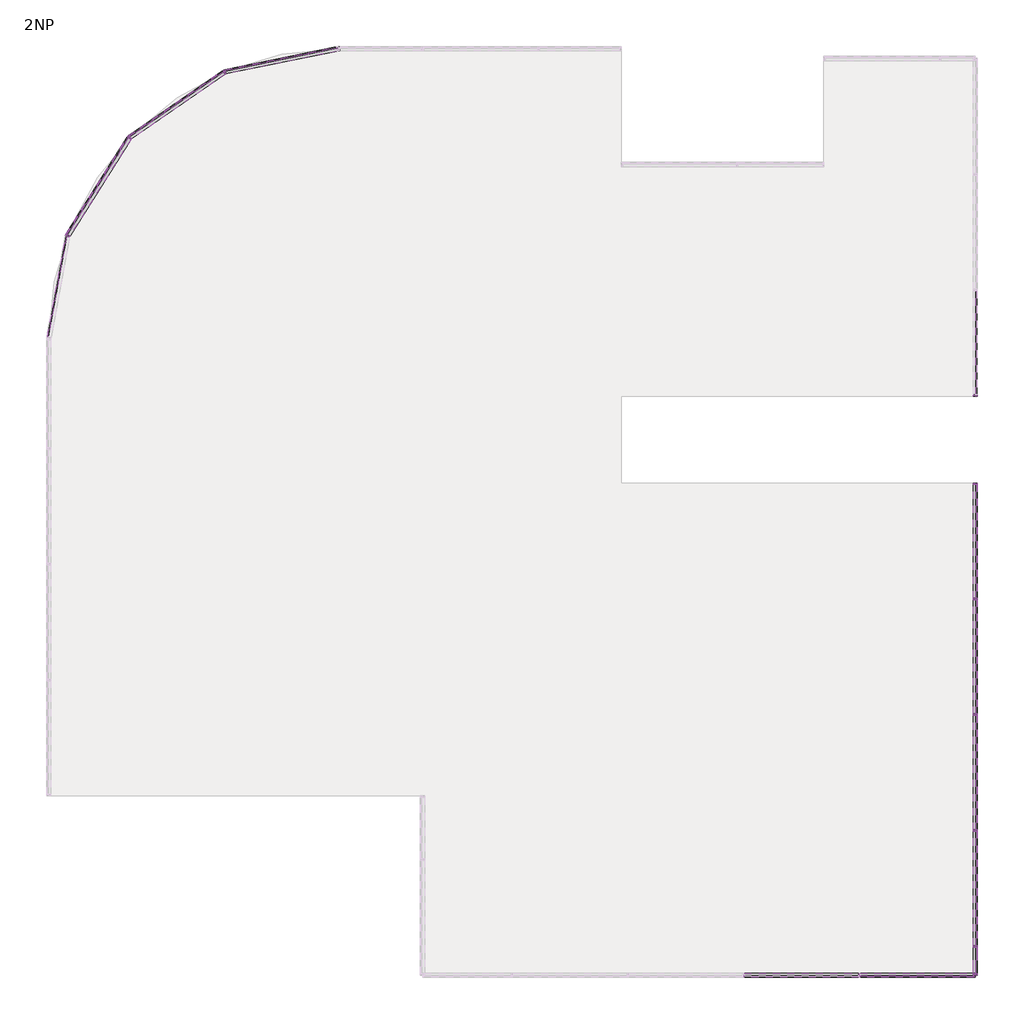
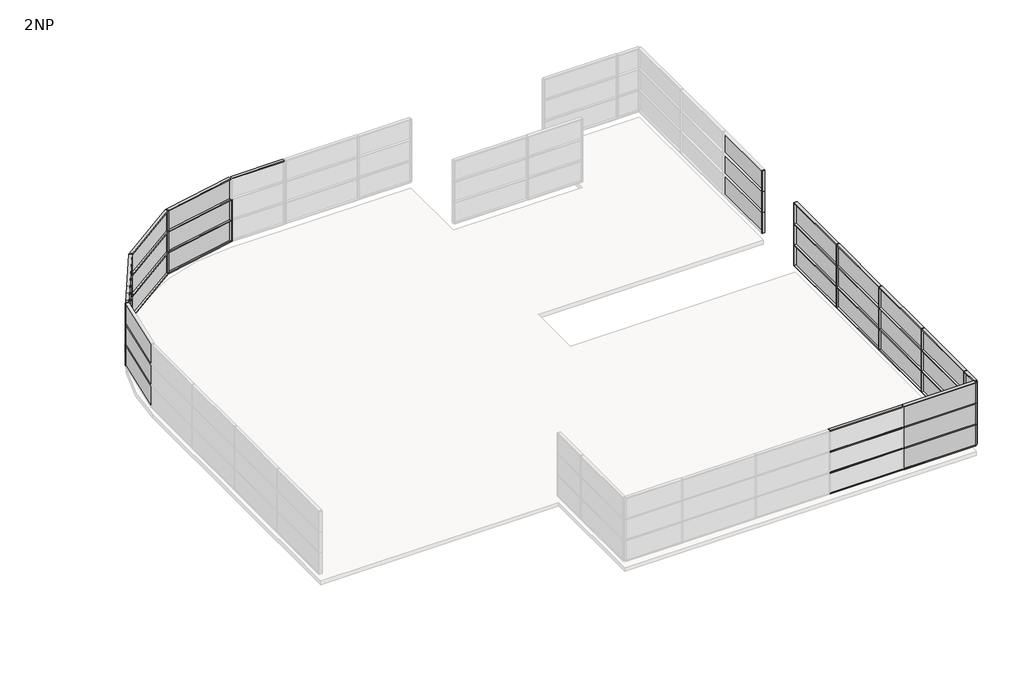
# One storey, part 2 of 3: 76 members, 33 plates.
"""IFC4 building model written with IfcOpenShell, lengths in millimetres."""

from ifc_helpers import new_model, si_unit, origin, place, context, project, spatial, transform, mapped, element, save
from components import rectangular_mullion_50_x_150mm_d99dc9be, rectangular_mullion_50_x_150mm_6588f46c, rectangular_mullion_50_x_150mm_a037c29c, rectangular_mullion_50_x_150mm_c2546fd4, rectangular_mullion_50_x_150mm_116cff39, rectangular_mullion_50_x_150mm_6d604593, rectangular_mullion_50_x_150mm_99029072, rectangular_mullion_50_x_150mm_662445cf, system_panel_glazed_8e9402eb, system_panel_glazed_89ac83a7, system_panel_glazed_5566c609, system_panel_glazed_8c18451d, system_panel_glazed_f47374c1, system_panel_glazed_c3dc520e, system_panel_glazed_01c601c5

model = new_model("IFC4")

# Units and contexts
model_context = context("Model", 3, world=origin())
ifc_project = project(units=[si_unit("LENGTHUNIT", "METRE", prefix="MILLI")], contexts=[model_context])

# Site, building, storey
site = spatial("IfcSite", under=ifc_project)
building = spatial("IfcBuilding", under=site)
storey = spatial("IfcBuildingStorey", under=building, Name="2NP", Elevation=8000.0)

# Members
placement = place(None, origin())
rectangular_mullion_50_x_150mm_shape = rectangular_mullion_50_x_150mm_d99dc9be(model_context)
element("IfcMember", 1, ObjectType="Rectangular Mullion : 50 x 150mm", at=placement, inside=storey, context=model_context, shape_type="MappedRepresentation", body=[
    mapped(rectangular_mullion_50_x_150mm_shape, transform((13503.2660975, -10624.0160434, 9600.0), x_axis=(0.0, -1.0, 0.0), y_axis=(1.0, 0.0, 0.0), z_axis=(0.0, 0.0, 1.0))),
])
element("IfcMember", 2, ObjectType="Rectangular Mullion : 50 x 150mm", at=placement, inside=storey, context=model_context, shape_type="MappedRepresentation", body=[
    mapped(rectangular_mullion_50_x_150mm_shape, transform((13503.2660975, -10624.0160434, 10800.0), x_axis=(0.0, -1.0, 0.0), y_axis=(1.0, 0.0, 0.0), z_axis=(0.0, 0.0, 1.0))),
])
element("IfcMember", 3, ObjectType="Rectangular Mullion : 50 x 150mm", at=placement, inside=storey, context=model_context, shape_type="MappedRepresentation", body=[
    mapped(rectangular_mullion_50_x_150mm_shape, transform((13503.2660975, -10624.0160434, 12000.0), x_axis=(0.0, -1.0, 0.0), y_axis=(1.0, 0.0, 0.0), z_axis=(0.0, 0.0, 1.0))),
])
element("IfcMember", 4, ObjectType="Rectangular Mullion : 50 x 150mm", at=placement, inside=storey, context=model_context, shape_type="MappedRepresentation", body=[
    mapped(rectangular_mullion_50_x_150mm_shape, transform((13503.2660975, -14624.0160434, 9600.0), x_axis=(0.0, -1.0, 0.0), y_axis=(1.0, 0.0, 0.0), z_axis=(0.0, 0.0, 1.0))),
])
element("IfcMember", 5, ObjectType="Rectangular Mullion : 50 x 150mm", at=placement, inside=storey, context=model_context, shape_type="MappedRepresentation", body=[
    mapped(rectangular_mullion_50_x_150mm_shape, transform((13503.2660975, -14624.0160434, 10800.0), x_axis=(0.0, -1.0, 0.0), y_axis=(1.0, 0.0, 0.0), z_axis=(0.0, 0.0, 1.0))),
])
element("IfcMember", 6, ObjectType="Rectangular Mullion : 50 x 150mm", at=placement, inside=storey, context=model_context, shape_type="MappedRepresentation", body=[
    mapped(rectangular_mullion_50_x_150mm_shape, transform((13503.2660975, -14624.0160434, 12000.0), x_axis=(0.0, -1.0, 0.0), y_axis=(1.0, 0.0, 0.0), z_axis=(0.0, 0.0, 1.0))),
])
element("IfcMember", 7, ObjectType="Rectangular Mullion : 50 x 150mm", at=placement, inside=storey, context=model_context, shape_type="MappedRepresentation", body=[
    mapped(rectangular_mullion_50_x_150mm_shape, transform((13503.2660975, -18624.0160434, 9600.0), x_axis=(0.0, -1.0, 0.0), y_axis=(1.0, 0.0, 0.0), z_axis=(0.0, 0.0, 1.0))),
])
element("IfcMember", 8, ObjectType="Rectangular Mullion : 50 x 150mm", at=placement, inside=storey, context=model_context, shape_type="MappedRepresentation", body=[
    mapped(rectangular_mullion_50_x_150mm_shape, transform((13503.2660975, -18624.0160434, 10800.0), x_axis=(0.0, -1.0, 0.0), y_axis=(1.0, 0.0, 0.0), z_axis=(0.0, 0.0, 1.0))),
])
element("IfcMember", 9, ObjectType="Rectangular Mullion : 50 x 150mm", at=placement, inside=storey, context=model_context, shape_type="MappedRepresentation", body=[
    mapped(rectangular_mullion_50_x_150mm_shape, transform((13503.2660975, -18624.0160434, 12000.0), x_axis=(0.0, -1.0, 0.0), y_axis=(1.0, 0.0, 0.0), z_axis=(0.0, 0.0, 1.0))),
])
element("IfcMember", 10, ObjectType="Rectangular Mullion : 50 x 150mm", at=placement, inside=storey, context=model_context, shape_type="MappedRepresentation", body=[
    mapped(rectangular_mullion_50_x_150mm_shape, transform((13503.2660975, -22624.0160434, 9600.0), x_axis=(0.0, -1.0, 0.0), y_axis=(1.0, 0.0, 0.0), z_axis=(0.0, 0.0, 1.0))),
])
element("IfcMember", 11, ObjectType="Rectangular Mullion : 50 x 150mm", at=placement, inside=storey, context=model_context, shape_type="MappedRepresentation", body=[
    mapped(rectangular_mullion_50_x_150mm_shape, transform((13503.2660975, -22624.0160434, 10800.0), x_axis=(0.0, -1.0, 0.0), y_axis=(1.0, 0.0, 0.0), z_axis=(0.0, 0.0, 1.0))),
])
element("IfcMember", 12, ObjectType="Rectangular Mullion : 50 x 150mm", at=placement, inside=storey, context=model_context, shape_type="MappedRepresentation", body=[
    mapped(rectangular_mullion_50_x_150mm_shape, transform((13503.2660975, -22624.0160434, 12000.0), x_axis=(0.0, -1.0, 0.0), y_axis=(1.0, 0.0, 0.0), z_axis=(0.0, 0.0, 1.0))),
])
rectangular_mullion_50_x_150mm_2_shape = rectangular_mullion_50_x_150mm_6588f46c(model_context)
element("IfcMember", 13, ObjectType="Rectangular Mullion : 50 x 150mm", at=placement, inside=storey, context=model_context, shape_type="MappedRepresentation", body=[
    mapped(rectangular_mullion_50_x_150mm_2_shape, transform((13503.2660975, -3624.0160434, 12000.0), x_axis=(0.0, -1.0, 0.0), y_axis=(1.0, 0.0, 0.0), z_axis=(0.0, 0.0, 1.0))),
])
element("IfcMember", 14, ObjectType="Rectangular Mullion : 50 x 150mm", at=placement, inside=storey, context=model_context, shape_type="MappedRepresentation", body=[
    mapped(rectangular_mullion_50_x_150mm_2_shape, transform((13503.2660975, -3624.0160434, 10800.0), x_axis=(0.0, -1.0, 0.0), y_axis=(1.0, 0.0, 0.0), z_axis=(0.0, 0.0, 1.0))),
])
element("IfcMember", 15, ObjectType="Rectangular Mullion : 50 x 150mm", at=placement, inside=storey, context=model_context, shape_type="MappedRepresentation", body=[
    mapped(rectangular_mullion_50_x_150mm_2_shape, transform((13503.2660975, -3624.0160434, 9600.0), x_axis=(0.0, -1.0, 0.0), y_axis=(1.0, 0.0, 0.0), z_axis=(0.0, 0.0, 1.0))),
])
element("IfcMember", 16, ObjectType="Rectangular Mullion : 50 x 150mm", at=placement, inside=storey, context=model_context, shape_type="MappedRepresentation", body=[
    mapped(rectangular_mullion_50_x_150mm_2_shape, transform((13503.2660975, -23624.0160434, 9600.0), x_axis=(0.0, -1.0, 0.0), y_axis=(1.0, 0.0, 0.0), z_axis=(0.0, 0.0, 1.0))),
])
element("IfcMember", 17, ObjectType="Rectangular Mullion : 50 x 150mm", at=placement, inside=storey, context=model_context, shape_type="MappedRepresentation", body=[
    mapped(rectangular_mullion_50_x_150mm_2_shape, transform((13503.2660975, -23624.0160434, 10800.0), x_axis=(0.0, -1.0, 0.0), y_axis=(1.0, 0.0, 0.0), z_axis=(0.0, 0.0, 1.0))),
])
element("IfcMember", 18, ObjectType="Rectangular Mullion : 50 x 150mm", at=placement, inside=storey, context=model_context, shape_type="MappedRepresentation", body=[
    mapped(rectangular_mullion_50_x_150mm_2_shape, transform((13503.2660975, -23624.0160434, 12000.0), x_axis=(0.0, -1.0, 0.0), y_axis=(1.0, 0.0, 0.0), z_axis=(0.0, 0.0, 1.0))),
])
rectangular_mullion_50_x_150mm_3_shape = rectangular_mullion_50_x_150mm_a037c29c(model_context)
element("IfcMember", 19, ObjectType="Rectangular Mullion : 50 x 150mm", at=placement, inside=storey, context=model_context, shape_type="MappedRepresentation", body=[
    mapped(rectangular_mullion_50_x_150mm_3_shape, transform((13503.2660975, -10649.0160434, 8400.0), x_axis=(0.0, 0.0, 1.0), y_axis=(1.0, 0.0, 0.0), z_axis=(0.0, 1.0, 0.0))),
])
element("IfcMember", 20, ObjectType="Rectangular Mullion : 50 x 150mm", at=placement, inside=storey, context=model_context, shape_type="MappedRepresentation", body=[
    mapped(rectangular_mullion_50_x_150mm_3_shape, transform((13503.2660975, -14649.0160434, 8400.0), x_axis=(0.0, 0.0, 1.0), y_axis=(1.0, 0.0, 0.0), z_axis=(0.0, 1.0, 0.0))),
])
element("IfcMember", 21, ObjectType="Rectangular Mullion : 50 x 150mm", at=placement, inside=storey, context=model_context, shape_type="MappedRepresentation", body=[
    mapped(rectangular_mullion_50_x_150mm_3_shape, transform((13503.2660975, -18649.0160434, 8400.0), x_axis=(0.0, 0.0, 1.0), y_axis=(1.0, 0.0, 0.0), z_axis=(0.0, 1.0, 0.0))),
])
element("IfcMember", 22, ObjectType="Rectangular Mullion : 50 x 150mm", at=placement, inside=storey, context=model_context, shape_type="MappedRepresentation", body=[
    mapped(rectangular_mullion_50_x_150mm_3_shape, transform((13503.2660975, -10649.0160434, 9600.0), x_axis=(0.0, 0.0, 1.0), y_axis=(1.0, 0.0, 0.0), z_axis=(0.0, 1.0, 0.0))),
])
element("IfcMember", 23, ObjectType="Rectangular Mullion : 50 x 150mm", at=placement, inside=storey, context=model_context, shape_type="MappedRepresentation", body=[
    mapped(rectangular_mullion_50_x_150mm_3_shape, transform((13503.2660975, -14649.0160434, 9600.0), x_axis=(0.0, 0.0, 1.0), y_axis=(1.0, 0.0, 0.0), z_axis=(0.0, 1.0, 0.0))),
])
element("IfcMember", 24, ObjectType="Rectangular Mullion : 50 x 150mm", at=placement, inside=storey, context=model_context, shape_type="MappedRepresentation", body=[
    mapped(rectangular_mullion_50_x_150mm_3_shape, transform((13503.2660975, -18649.0160434, 9600.0), x_axis=(0.0, 0.0, 1.0), y_axis=(1.0, 0.0, 0.0), z_axis=(0.0, 1.0, 0.0))),
])
element("IfcMember", 25, ObjectType="Rectangular Mullion : 50 x 150mm", at=placement, inside=storey, context=model_context, shape_type="MappedRepresentation", body=[
    mapped(rectangular_mullion_50_x_150mm_3_shape, transform((13503.2660975, -10649.0160434, 10800.0), x_axis=(0.0, 0.0, 1.0), y_axis=(1.0, 0.0, 0.0), z_axis=(0.0, 1.0, 0.0))),
])
element("IfcMember", 26, ObjectType="Rectangular Mullion : 50 x 150mm", at=placement, inside=storey, context=model_context, shape_type="MappedRepresentation", body=[
    mapped(rectangular_mullion_50_x_150mm_3_shape, transform((13503.2660975, -14649.0160434, 10800.0), x_axis=(0.0, 0.0, 1.0), y_axis=(1.0, 0.0, 0.0), z_axis=(0.0, 1.0, 0.0))),
])
element("IfcMember", 27, ObjectType="Rectangular Mullion : 50 x 150mm", at=placement, inside=storey, context=model_context, shape_type="MappedRepresentation", body=[
    mapped(rectangular_mullion_50_x_150mm_3_shape, transform((13503.2660975, -18649.0160434, 10800.0), x_axis=(0.0, 0.0, 1.0), y_axis=(1.0, 0.0, 0.0), z_axis=(0.0, 1.0, 0.0))),
])
element("IfcMember", 28, ObjectType="Rectangular Mullion : 50 x 150mm", at=placement, inside=storey, context=model_context, shape_type="MappedRepresentation", body=[
    mapped(rectangular_mullion_50_x_150mm_3_shape, transform((13503.2660975, -10649.0160434, 12000.0), x_axis=(0.0, 0.0, 1.0), y_axis=(1.0, 0.0, 0.0), z_axis=(0.0, 1.0, 0.0))),
])
element("IfcMember", 29, ObjectType="Rectangular Mullion : 50 x 150mm", at=placement, inside=storey, context=model_context, shape_type="MappedRepresentation", body=[
    mapped(rectangular_mullion_50_x_150mm_3_shape, transform((13503.2660975, -14649.0160434, 12000.0), x_axis=(0.0, 0.0, 1.0), y_axis=(1.0, 0.0, 0.0), z_axis=(0.0, 1.0, 0.0))),
])
element("IfcMember", 30, ObjectType="Rectangular Mullion : 50 x 150mm", at=placement, inside=storey, context=model_context, shape_type="MappedRepresentation", body=[
    mapped(rectangular_mullion_50_x_150mm_3_shape, transform((13503.2660975, -18649.0160434, 12000.0), x_axis=(0.0, 0.0, 1.0), y_axis=(1.0, 0.0, 0.0), z_axis=(0.0, 1.0, 0.0))),
])
element("IfcMember", 31, ObjectType="Rectangular Mullion : 50 x 150mm", at=placement, inside=storey, context=model_context, shape_type="MappedRepresentation", body=[
    mapped(rectangular_mullion_50_x_150mm_3_shape, transform((9478.2660975, -23624.0160434, 9600.0), x_axis=(0.0, 0.0, 1.0), y_axis=(0.0, -1.0, 0.0), z_axis=(1.0, 0.0, 0.0))),
])
element("IfcMember", 32, ObjectType="Rectangular Mullion : 50 x 150mm", at=placement, inside=storey, context=model_context, shape_type="MappedRepresentation", body=[
    mapped(rectangular_mullion_50_x_150mm_3_shape, transform((9478.2660975, -23624.0160434, 10800.0), x_axis=(0.0, 0.0, 1.0), y_axis=(0.0, -1.0, 0.0), z_axis=(1.0, 0.0, 0.0))),
])
element("IfcMember", 33, ObjectType="Rectangular Mullion : 50 x 150mm", at=placement, inside=storey, context=model_context, shape_type="MappedRepresentation", body=[
    mapped(rectangular_mullion_50_x_150mm_3_shape, transform((9478.2660975, -23624.0160434, 12000.0), x_axis=(0.0, 0.0, 1.0), y_axis=(0.0, -1.0, 0.0), z_axis=(1.0, 0.0, 0.0))),
])
element("IfcMember", 34, ObjectType="Rectangular Mullion : 50 x 150mm", at=placement, inside=storey, context=model_context, shape_type="MappedRepresentation", body=[
    mapped(rectangular_mullion_50_x_150mm_3_shape, transform((9478.2660975, -23624.0160434, 8400.0), x_axis=(0.0, 0.0, 1.0), y_axis=(0.0, -1.0, 0.0), z_axis=(1.0, 0.0, 0.0))),
])
rectangular_mullion_50_x_150mm_4_shape = rectangular_mullion_50_x_150mm_c2546fd4(model_context)
element("IfcMember", 35, ObjectType="Rectangular Mullion : 50 x 150mm", at=placement, inside=storey, context=model_context, shape_type="MappedRepresentation", body=[
    mapped(rectangular_mullion_50_x_150mm_4_shape, transform((13503.2660975, -6674.0160434, 8400.0), x_axis=(0.0, 0.0, 1.0), y_axis=(1.0, 0.0, 0.0), z_axis=(0.0, 1.0, 0.0))),
])
element("IfcMember", 36, ObjectType="Rectangular Mullion : 50 x 150mm", at=placement, inside=storey, context=model_context, shape_type="MappedRepresentation", body=[
    mapped(rectangular_mullion_50_x_150mm_4_shape, transform((13503.2660975, -6674.0160434, 9600.0), x_axis=(0.0, 0.0, 1.0), y_axis=(1.0, 0.0, 0.0), z_axis=(0.0, 1.0, 0.0))),
])
element("IfcMember", 37, ObjectType="Rectangular Mullion : 50 x 150mm", at=placement, inside=storey, context=model_context, shape_type="MappedRepresentation", body=[
    mapped(rectangular_mullion_50_x_150mm_4_shape, transform((13503.2660975, -6674.0160434, 10800.0), x_axis=(0.0, 0.0, 1.0), y_axis=(1.0, 0.0, 0.0), z_axis=(0.0, 1.0, 0.0))),
])
element("IfcMember", 38, ObjectType="Rectangular Mullion : 50 x 150mm", at=placement, inside=storey, context=model_context, shape_type="MappedRepresentation", body=[
    mapped(rectangular_mullion_50_x_150mm_4_shape, transform((13503.2660975, -6674.0160434, 12000.0), x_axis=(0.0, 0.0, 1.0), y_axis=(1.0, 0.0, 0.0), z_axis=(0.0, 1.0, 0.0))),
])
element("IfcMember", 39, ObjectType="Rectangular Mullion : 50 x 150mm", at=placement, inside=storey, context=model_context, shape_type="MappedRepresentation", body=[
    mapped(rectangular_mullion_50_x_150mm_4_shape, transform((13453.2660975, -23624.0160434, 9600.0), x_axis=(0.0, 0.0, 1.0), y_axis=(0.0, -1.0, 0.0), z_axis=(1.0, 0.0, 0.0))),
])
element("IfcMember", 40, ObjectType="Rectangular Mullion : 50 x 150mm", at=placement, inside=storey, context=model_context, shape_type="MappedRepresentation", body=[
    mapped(rectangular_mullion_50_x_150mm_4_shape, transform((13453.2660975, -23624.0160434, 10800.0), x_axis=(0.0, 0.0, 1.0), y_axis=(0.0, -1.0, 0.0), z_axis=(1.0, 0.0, 0.0))),
])
element("IfcMember", 41, ObjectType="Rectangular Mullion : 50 x 150mm", at=placement, inside=storey, context=model_context, shape_type="MappedRepresentation", body=[
    mapped(rectangular_mullion_50_x_150mm_4_shape, transform((13453.2660975, -23624.0160434, 12000.0), x_axis=(0.0, 0.0, 1.0), y_axis=(0.0, -1.0, 0.0), z_axis=(1.0, 0.0, 0.0))),
])
element("IfcMember", 42, ObjectType="Rectangular Mullion : 50 x 150mm", at=placement, inside=storey, context=model_context, shape_type="MappedRepresentation", body=[
    mapped(rectangular_mullion_50_x_150mm_4_shape, transform((13453.2660975, -23624.0160434, 8400.0), x_axis=(0.0, 0.0, 1.0), y_axis=(0.0, -1.0, 0.0), z_axis=(1.0, 0.0, 0.0))),
])
element("IfcMember", 43, ObjectType="Rectangular Mullion : 50 x 150mm", at=placement, inside=storey, context=model_context, shape_type="MappedRepresentation", body=[
    mapped(rectangular_mullion_50_x_150mm_2_shape, transform((13503.2660975, -6624.0160434, 8400.0), x_axis=(0.0, 1.0, 0.0), y_axis=(1.0, 0.0, 0.0), z_axis=(0.0, 0.0, -1.0))),
])
element("IfcMember", 44, ObjectType="Rectangular Mullion : 50 x 150mm", at=placement, inside=storey, context=model_context, shape_type="MappedRepresentation", body=[
    mapped(rectangular_mullion_50_x_150mm_2_shape, transform((13503.2660975, -6624.0160434, 9600.0), x_axis=(0.0, 1.0, 0.0), y_axis=(1.0, 0.0, 0.0), z_axis=(0.0, 0.0, -1.0))),
])
element("IfcMember", 45, ObjectType="Rectangular Mullion : 50 x 150mm", at=placement, inside=storey, context=model_context, shape_type="MappedRepresentation", body=[
    mapped(rectangular_mullion_50_x_150mm_2_shape, transform((13503.2660975, -6624.0160434, 10800.0), x_axis=(0.0, 1.0, 0.0), y_axis=(1.0, 0.0, 0.0), z_axis=(0.0, 0.0, -1.0))),
])
element("IfcMember", 46, ObjectType="Rectangular Mullion : 50 x 150mm", at=placement, inside=storey, context=model_context, shape_type="MappedRepresentation", body=[
    mapped(rectangular_mullion_50_x_150mm_2_shape, transform((13503.2660975, -23624.0160434, 8400.0), x_axis=(1.0, 0.0, 0.0), y_axis=(0.0, -1.0, 0.0), z_axis=(0.0, 0.0, -1.0))),
])
element("IfcMember", 47, ObjectType="Rectangular Mullion : 50 x 150mm", at=placement, inside=storey, context=model_context, shape_type="MappedRepresentation", body=[
    mapped(rectangular_mullion_50_x_150mm_2_shape, transform((13503.2660975, -23624.0160434, 9600.0), x_axis=(1.0, 0.0, 0.0), y_axis=(0.0, -1.0, 0.0), z_axis=(0.0, 0.0, -1.0))),
])
element("IfcMember", 48, ObjectType="Rectangular Mullion : 50 x 150mm", at=placement, inside=storey, context=model_context, shape_type="MappedRepresentation", body=[
    mapped(rectangular_mullion_50_x_150mm_2_shape, transform((13503.2660975, -23624.0160434, 10800.0), x_axis=(1.0, 0.0, 0.0), y_axis=(0.0, -1.0, 0.0), z_axis=(0.0, 0.0, -1.0))),
])
element("IfcMember", 49, ObjectType="Rectangular Mullion : 50 x 150mm", at=placement, inside=storey, context=model_context, shape_type="MappedRepresentation", body=[
    mapped(rectangular_mullion_50_x_150mm_2_shape, transform((-8496.7339025, 8375.9839566, 8400.0), x_axis=(-1.0, 0.0, 0.0), y_axis=(0.0, 1.0, 0.0), z_axis=(0.0, 0.0, -1.0))),
])
element("IfcMember", 50, ObjectType="Rectangular Mullion : 50 x 150mm", at=placement, inside=storey, context=model_context, shape_type="MappedRepresentation", body=[
    mapped(rectangular_mullion_50_x_150mm_2_shape, transform((-8496.7339025, 8375.9839566, 9600.0), x_axis=(-1.0, 0.0, 0.0), y_axis=(0.0, 1.0, 0.0), z_axis=(0.0, 0.0, -1.0))),
])
rectangular_mullion_50_x_150mm_5_shape = rectangular_mullion_50_x_150mm_116cff39(model_context)
element("IfcMember", 51, ObjectType="Rectangular Mullion : 50 x 150mm", at=placement, inside=storey, context=model_context, shape_type="MappedRepresentation", body=[
    mapped(rectangular_mullion_50_x_150mm_5_shape, transform((13503.2660975, -22649.0160434, 8400.0), x_axis=(0.0, 0.0, 1.0), y_axis=(1.0, 0.0, 0.0), z_axis=(0.0, 1.0, 0.0))),
])
element("IfcMember", 52, ObjectType="Rectangular Mullion : 50 x 150mm", at=placement, inside=storey, context=model_context, shape_type="MappedRepresentation", body=[
    mapped(rectangular_mullion_50_x_150mm_5_shape, transform((13503.2660975, -22649.0160434, 9600.0), x_axis=(0.0, 0.0, 1.0), y_axis=(1.0, 0.0, 0.0), z_axis=(0.0, 1.0, 0.0))),
])
element("IfcMember", 53, ObjectType="Rectangular Mullion : 50 x 150mm", at=placement, inside=storey, context=model_context, shape_type="MappedRepresentation", body=[
    mapped(rectangular_mullion_50_x_150mm_5_shape, transform((13503.2660975, -22649.0160434, 10800.0), x_axis=(0.0, 0.0, 1.0), y_axis=(1.0, 0.0, 0.0), z_axis=(0.0, 1.0, 0.0))),
])
element("IfcMember", 54, ObjectType="Rectangular Mullion : 50 x 150mm", at=placement, inside=storey, context=model_context, shape_type="MappedRepresentation", body=[
    mapped(rectangular_mullion_50_x_150mm_5_shape, transform((13503.2660975, -22649.0160434, 12000.0), x_axis=(0.0, 0.0, 1.0), y_axis=(1.0, 0.0, 0.0), z_axis=(0.0, 1.0, 0.0))),
])
rectangular_mullion_50_x_150mm_6_shape = rectangular_mullion_50_x_150mm_6d604593(model_context)
element("IfcMember", 55, ObjectType="Rectangular Mullion : 50 x 150mm", at=placement, inside=storey, context=model_context, shape_type="MappedRepresentation", body=[
    mapped(rectangular_mullion_50_x_150mm_6_shape, transform((-8446.7339025, 8375.9839566, 12000.0), x_axis=(0.0, 0.0, 1.0), y_axis=(0.0, 1.0, 0.0), z_axis=(-1.0, 0.0, 0.0))),
])
rectangular_mullion_50_x_150mm_7_shape = rectangular_mullion_50_x_150mm_99029072(model_context)
element("IfcMember", 56, ObjectType="Rectangular Mullion : 50 x 150mm", at=placement, inside=storey, context=model_context, shape_type="MappedRepresentation", body=[
    mapped(rectangular_mullion_50_x_150mm_7_shape, transform((-15687.4559914, 5318.1839566, 10800.0), x_axis=(0.0, 0.0, 1.0), y_axis=(-0.5680000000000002, 0.8230285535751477, 0.0), z_axis=(-0.8230285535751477, -0.5680000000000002, 0.0))),
])
element("IfcMember", 57, ObjectType="Rectangular Mullion : 50 x 150mm", at=placement, inside=storey, context=model_context, shape_type="MappedRepresentation", body=[
    mapped(rectangular_mullion_50_x_150mm_7_shape, transform((-17832.9738551, 1944.6319566, 10800.0), x_axis=(0.0, 0.0, 1.0), y_axis=(-0.84512, 0.534576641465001, 0.0), z_axis=(-0.534576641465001, -0.84512, 0.0))),
])
element("IfcMember", 58, ObjectType="Rectangular Mullion : 50 x 150mm", at=placement, inside=storey, context=model_context, shape_type="MappedRepresentation", body=[
    mapped(rectangular_mullion_50_x_150mm_7_shape, transform((-15687.4559914, 5318.1839566, 8400.0), x_axis=(0.0, 0.0, 1.0), y_axis=(-0.5680000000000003, 0.8230285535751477, 0.0), z_axis=(-0.8230285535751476, -0.5680000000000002, 0.0))),
])
element("IfcMember", 59, ObjectType="Rectangular Mullion : 50 x 150mm", at=placement, inside=storey, context=model_context, shape_type="MappedRepresentation", body=[
    mapped(rectangular_mullion_50_x_150mm_7_shape, transform((-17832.9738551, 1944.6319566, 8400.0), x_axis=(0.0, 0.0, 1.0), y_axis=(-0.84512, 0.534576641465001, 0.0), z_axis=(-0.534576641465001, -0.84512, 0.0))),
])
element("IfcMember", 60, ObjectType="Rectangular Mullion : 50 x 150mm", at=placement, inside=storey, context=model_context, shape_type="MappedRepresentation", body=[
    mapped(rectangular_mullion_50_x_150mm_7_shape, transform((-15687.4559914, 5318.1839566, 9600.0), x_axis=(0.0, 0.0, 1.0), y_axis=(-0.5680000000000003, 0.8230285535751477, 0.0), z_axis=(-0.8230285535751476, -0.5680000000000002, 0.0))),
])
element("IfcMember", 61, ObjectType="Rectangular Mullion : 50 x 150mm", at=placement, inside=storey, context=model_context, shape_type="MappedRepresentation", body=[
    mapped(rectangular_mullion_50_x_150mm_7_shape, transform((-17832.9738551, 1944.6319566, 9600.0), x_axis=(0.0, 0.0, 1.0), y_axis=(-0.84512, 0.534576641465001, 0.0), z_axis=(-0.534576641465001, -0.84512, 0.0))),
])
rectangular_mullion_50_x_150mm_8_shape = rectangular_mullion_50_x_150mm_662445cf(model_context)
element("IfcMember", 62, ObjectType="Rectangular Mullion : 50 x 150mm", at=placement, inside=storey, context=model_context, shape_type="MappedRepresentation", body=[
    mapped(rectangular_mullion_50_x_150mm_8_shape, transform((-12391.4225935, 7580.9839566, 10800.0), x_axis=(0.0, 0.0, 1.0), y_axis=(-0.19999999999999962, 0.9797958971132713, 0.0), z_axis=(-0.9797958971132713, -0.19999999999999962, 0.0))),
])
element("IfcMember", 63, ObjectType="Rectangular Mullion : 50 x 150mm", at=placement, inside=storey, context=model_context, shape_type="MappedRepresentation", body=[
    mapped(rectangular_mullion_50_x_150mm_8_shape, transform((-12391.4225935, 7580.9839566, 8400.0), x_axis=(0.0, 0.0, 1.0), y_axis=(-0.19999999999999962, 0.9797958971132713, 0.0), z_axis=(-0.9797958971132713, -0.19999999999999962, 0.0))),
])
element("IfcMember", 64, ObjectType="Rectangular Mullion : 50 x 150mm", at=placement, inside=storey, context=model_context, shape_type="MappedRepresentation", body=[
    mapped(rectangular_mullion_50_x_150mm_8_shape, transform((-12391.4225935, 7580.9839566, 9600.0), x_axis=(0.0, 0.0, 1.0), y_axis=(-0.19999999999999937, 0.9797958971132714, 0.0), z_axis=(-0.9797958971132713, -0.19999999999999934, 0.0))),
])
element("IfcMember", 65, ObjectType="Rectangular Mullion : 50 x 150mm", at=placement, inside=storey, context=model_context, shape_type="MappedRepresentation", body=[
    mapped(rectangular_mullion_50_x_150mm_8_shape, transform((-12391.4225935, 7580.9839566, 12000.0), x_axis=(0.0, 0.0, 1.0), y_axis=(-0.19999999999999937, 0.9797958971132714, 0.0), z_axis=(-0.9797958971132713, -0.19999999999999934, 0.0))),
])
element("IfcMember", 66, ObjectType="Rectangular Mullion : 50 x 150mm", at=placement, inside=storey, context=model_context, shape_type="MappedRepresentation", body=[
    mapped(rectangular_mullion_50_x_150mm_7_shape, transform((-15687.4559914, 5318.1839566, 12000.0), x_axis=(0.0, 0.0, 1.0), y_axis=(-0.5680000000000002, 0.8230285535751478, 0.0), z_axis=(-0.8230285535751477, -0.5680000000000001, 0.0))),
])
element("IfcMember", 67, ObjectType="Rectangular Mullion : 50 x 150mm", at=placement, inside=storey, context=model_context, shape_type="MappedRepresentation", body=[
    mapped(rectangular_mullion_50_x_150mm_7_shape, transform((-17832.9738551, 1944.6319566, 12000.0), x_axis=(0.0, 0.0, 1.0), y_axis=(-0.84512, 0.534576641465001, 0.0), z_axis=(-0.534576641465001, -0.84512, 0.0))),
])
element("IfcMember", 68, ObjectType="Rectangular Mullion : 50 x 150mm", at=placement, inside=storey, context=model_context, shape_type="MappedRepresentation", body=[
    mapped(rectangular_mullion_50_x_150mm_shape, transform((-12415.9174909, 7575.9839566, 8400.0), x_axis=(-0.92, -0.3919183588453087, 0.0), y_axis=(-0.3919183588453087, 0.92, 0.0), z_axis=(0.0, 0.0, -1.0))),
])
element("IfcMember", 69, ObjectType="Rectangular Mullion : 50 x 150mm", at=placement, inside=storey, context=model_context, shape_type="MappedRepresentation", body=[
    mapped(rectangular_mullion_50_x_150mm_shape, transform((-12415.9174909, 7575.9839566, 9600.0), x_axis=(-0.92, -0.3919183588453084, 0.0), y_axis=(-0.3919183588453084, 0.92, 0.0), z_axis=(0.0, 0.0, -1.0))),
])
element("IfcMember", 70, ObjectType="Rectangular Mullion : 50 x 150mm", at=placement, inside=storey, context=model_context, shape_type="MappedRepresentation", body=[
    mapped(rectangular_mullion_50_x_150mm_shape, transform((-12415.9174909, 7575.9839566, 10800.0), x_axis=(-0.9200000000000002, -0.3919183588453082, 0.0), y_axis=(-0.3919183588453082, 0.9200000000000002, 0.0), z_axis=(0.0, 0.0, -1.0))),
])
element("IfcMember", 71, ObjectType="Rectangular Mullion : 50 x 150mm", at=placement, inside=storey, context=model_context, shape_type="MappedRepresentation", body=[
    mapped(rectangular_mullion_50_x_150mm_shape, transform((-15708.0317052, 5303.9839566, 8400.0), x_axis=(-0.6927999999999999, -0.7211297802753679, 0.0), y_axis=(-0.7211297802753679, 0.6927999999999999, 0.0), z_axis=(0.0, 0.0, -1.0))),
])
element("IfcMember", 72, ObjectType="Rectangular Mullion : 50 x 150mm", at=placement, inside=storey, context=model_context, shape_type="MappedRepresentation", body=[
    mapped(rectangular_mullion_50_x_150mm_shape, transform((-15708.0317052, 5303.9839566, 9600.0), x_axis=(-0.6927999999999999, -0.7211297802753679, 0.0), y_axis=(-0.7211297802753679, 0.6927999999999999, 0.0), z_axis=(0.0, 0.0, -1.0))),
])
element("IfcMember", 73, ObjectType="Rectangular Mullion : 50 x 150mm", at=placement, inside=storey, context=model_context, shape_type="MappedRepresentation", body=[
    mapped(rectangular_mullion_50_x_150mm_shape, transform((-15708.0317052, 5303.9839566, 10800.0), x_axis=(-0.6927999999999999, -0.7211297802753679, 0.0), y_axis=(-0.7211297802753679, 0.6927999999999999, 0.0), z_axis=(0.0, 0.0, -1.0))),
])
element("IfcMember", 74, ObjectType="Rectangular Mullion : 50 x 150mm", at=placement, inside=storey, context=model_context, shape_type="MappedRepresentation", body=[
    mapped(rectangular_mullion_50_x_150mm_shape, transform((-17846.3382711, 1923.5039566, 8400.0), x_axis=(-0.35475199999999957, -0.9349604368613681, 0.0), y_axis=(-0.9349604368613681, 0.35475199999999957, 0.0), z_axis=(0.0, 0.0, -1.0))),
])
element("IfcMember", 75, ObjectType="Rectangular Mullion : 50 x 150mm", at=placement, inside=storey, context=model_context, shape_type="MappedRepresentation", body=[
    mapped(rectangular_mullion_50_x_150mm_shape, transform((-17846.3382711, 1923.5039566, 9600.0), x_axis=(-0.35475199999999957, -0.9349604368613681, 0.0), y_axis=(-0.9349604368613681, 0.35475199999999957, 0.0), z_axis=(0.0, 0.0, -1.0))),
])
element("IfcMember", 76, ObjectType="Rectangular Mullion : 50 x 150mm", at=placement, inside=storey, context=model_context, shape_type="MappedRepresentation", body=[
    mapped(rectangular_mullion_50_x_150mm_shape, transform((-17846.3382711, 1923.5039566, 10800.0), x_axis=(-0.35475199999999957, -0.9349604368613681, 0.0), y_axis=(-0.9349604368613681, 0.35475199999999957, 0.0), z_axis=(0.0, 0.0, -1.0))),
])

# Plates
system_panel_glazed_shape = system_panel_glazed_8e9402eb(model_context)
element("IfcPlate", 77, ObjectType="System Panel : Glazed", at=placement, inside=storey, context=model_context, shape_type="MappedRepresentation", body=[
    mapped(system_panel_glazed_shape, transform((11490.7660975, -23624.0160434, 8425.0), x_axis=(-1.0, 0.0, 0.0), y_axis=(0.0, -1.0, 0.0), z_axis=(0.0, 0.0, 1.0))),
])
element("IfcPlate", 78, ObjectType="System Panel : Glazed", at=placement, inside=storey, context=model_context, shape_type="MappedRepresentation", body=[
    mapped(system_panel_glazed_shape, transform((11490.7660975, -23624.0160434, 9625.0), x_axis=(-1.0, 0.0, 0.0), y_axis=(0.0, -1.0, 0.0), z_axis=(0.0, 0.0, 1.0))),
])
element("IfcPlate", 79, ObjectType="System Panel : Glazed", at=placement, inside=storey, context=model_context, shape_type="MappedRepresentation", body=[
    mapped(system_panel_glazed_shape, transform((11490.7660975, -23624.0160434, 10825.0), x_axis=(-1.0, 0.0, 0.0), y_axis=(0.0, -1.0, 0.0), z_axis=(0.0, 0.0, 1.0))),
])
element("IfcPlate", 80, ObjectType="System Panel : Glazed", at=placement, inside=storey, context=model_context, shape_type="MappedRepresentation", body=[
    mapped(system_panel_glazed_shape, transform((13503.2660975, -8636.5160434, 8425.0), x_axis=(0.0, -1.0, 0.0), y_axis=(1.0, 0.0, 0.0), z_axis=(0.0, 0.0, 1.0))),
])
element("IfcPlate", 81, ObjectType="System Panel : Glazed", at=placement, inside=storey, context=model_context, shape_type="MappedRepresentation", body=[
    mapped(system_panel_glazed_shape, transform((13503.2660975, -8636.5160434, 9625.0), x_axis=(0.0, -1.0, 0.0), y_axis=(1.0, 0.0, 0.0), z_axis=(0.0, 0.0, 1.0))),
])
element("IfcPlate", 82, ObjectType="System Panel : Glazed", at=placement, inside=storey, context=model_context, shape_type="MappedRepresentation", body=[
    mapped(system_panel_glazed_shape, transform((13503.2660975, -8636.5160434, 10825.0), x_axis=(0.0, -1.0, 0.0), y_axis=(1.0, 0.0, 0.0), z_axis=(0.0, 0.0, 1.0))),
])
system_panel_glazed_2_shape = system_panel_glazed_89ac83a7(model_context)
element("IfcPlate", 83, ObjectType="System Panel : Glazed", at=placement, inside=storey, context=model_context, shape_type="MappedRepresentation", body=[
    mapped(system_panel_glazed_2_shape, transform((13503.2660975, -12624.0160434, 8425.0), x_axis=(0.0, -1.0, 0.0), y_axis=(1.0, 0.0, 0.0), z_axis=(0.0, 0.0, 1.0))),
])
element("IfcPlate", 84, ObjectType="System Panel : Glazed", at=placement, inside=storey, context=model_context, shape_type="MappedRepresentation", body=[
    mapped(system_panel_glazed_2_shape, transform((13503.2660975, -16624.0160434, 8425.0), x_axis=(0.0, -1.0, 0.0), y_axis=(1.0, 0.0, 0.0), z_axis=(0.0, 0.0, 1.0))),
])
element("IfcPlate", 85, ObjectType="System Panel : Glazed", at=placement, inside=storey, context=model_context, shape_type="MappedRepresentation", body=[
    mapped(system_panel_glazed_2_shape, transform((13503.2660975, -20624.0160434, 8425.0), x_axis=(0.0, -1.0, 0.0), y_axis=(1.0, 0.0, 0.0), z_axis=(0.0, 0.0, 1.0))),
])
element("IfcPlate", 86, ObjectType="System Panel : Glazed", at=placement, inside=storey, context=model_context, shape_type="MappedRepresentation", body=[
    mapped(system_panel_glazed_2_shape, transform((13503.2660975, -12624.0160434, 9625.0), x_axis=(0.0, -1.0, 0.0), y_axis=(1.0, 0.0, 0.0), z_axis=(0.0, 0.0, 1.0))),
])
element("IfcPlate", 87, ObjectType="System Panel : Glazed", at=placement, inside=storey, context=model_context, shape_type="MappedRepresentation", body=[
    mapped(system_panel_glazed_2_shape, transform((13503.2660975, -16624.0160434, 9625.0), x_axis=(0.0, -1.0, 0.0), y_axis=(1.0, 0.0, 0.0), z_axis=(0.0, 0.0, 1.0))),
])
element("IfcPlate", 88, ObjectType="System Panel : Glazed", at=placement, inside=storey, context=model_context, shape_type="MappedRepresentation", body=[
    mapped(system_panel_glazed_2_shape, transform((13503.2660975, -20624.0160434, 9625.0), x_axis=(0.0, -1.0, 0.0), y_axis=(1.0, 0.0, 0.0), z_axis=(0.0, 0.0, 1.0))),
])
element("IfcPlate", 89, ObjectType="System Panel : Glazed", at=placement, inside=storey, context=model_context, shape_type="MappedRepresentation", body=[
    mapped(system_panel_glazed_2_shape, transform((13503.2660975, -12624.0160434, 10825.0), x_axis=(0.0, -1.0, 0.0), y_axis=(1.0, 0.0, 0.0), z_axis=(0.0, 0.0, 1.0))),
])
element("IfcPlate", 90, ObjectType="System Panel : Glazed", at=placement, inside=storey, context=model_context, shape_type="MappedRepresentation", body=[
    mapped(system_panel_glazed_2_shape, transform((13503.2660975, -16624.0160434, 10825.0), x_axis=(0.0, -1.0, 0.0), y_axis=(1.0, 0.0, 0.0), z_axis=(0.0, 0.0, 1.0))),
])
element("IfcPlate", 91, ObjectType="System Panel : Glazed", at=placement, inside=storey, context=model_context, shape_type="MappedRepresentation", body=[
    mapped(system_panel_glazed_2_shape, transform((13503.2660975, -20624.0160434, 10825.0), x_axis=(0.0, -1.0, 0.0), y_axis=(1.0, 0.0, 0.0), z_axis=(0.0, 0.0, 1.0))),
])
system_panel_glazed_3_shape = system_panel_glazed_5566c609(model_context)
element("IfcPlate", 92, ObjectType="System Panel : Glazed", at=placement, inside=storey, context=model_context, shape_type="MappedRepresentation", body=[
    mapped(system_panel_glazed_3_shape, transform((13503.2660975, -1779.830251, 8425.0), x_axis=(0.0, -1.0, 0.0), y_axis=(1.0, 0.0, 0.0), z_axis=(0.0, 0.0, 1.0))),
])
element("IfcPlate", 93, ObjectType="System Panel : Glazed", at=placement, inside=storey, context=model_context, shape_type="MappedRepresentation", body=[
    mapped(system_panel_glazed_3_shape, transform((13503.2660975, -1779.830251, 9625.0), x_axis=(0.0, -1.0, 0.0), y_axis=(1.0, 0.0, 0.0), z_axis=(0.0, 0.0, 1.0))),
])
element("IfcPlate", 94, ObjectType="System Panel : Glazed", at=placement, inside=storey, context=model_context, shape_type="MappedRepresentation", body=[
    mapped(system_panel_glazed_3_shape, transform((13503.2660975, -1779.830251, 10825.0), x_axis=(0.0, -1.0, 0.0), y_axis=(1.0, 0.0, 0.0), z_axis=(0.0, 0.0, 1.0))),
])
system_panel_glazed_4_shape = system_panel_glazed_8c18451d(model_context)
element("IfcPlate", 95, ObjectType="System Panel : Glazed", at=placement, inside=storey, context=model_context, shape_type="MappedRepresentation", body=[
    mapped(system_panel_glazed_4_shape, transform((13503.2660975, -23111.5160434, 8425.0), x_axis=(0.0, -1.0, 0.0), y_axis=(1.0, 0.0, 0.0), z_axis=(0.0, 0.0, 1.0))),
])
element("IfcPlate", 96, ObjectType="System Panel : Glazed", at=placement, inside=storey, context=model_context, shape_type="MappedRepresentation", body=[
    mapped(system_panel_glazed_4_shape, transform((13503.2660975, -23111.5160434, 9625.0), x_axis=(0.0, -1.0, 0.0), y_axis=(1.0, 0.0, 0.0), z_axis=(0.0, 0.0, 1.0))),
])
element("IfcPlate", 97, ObjectType="System Panel : Glazed", at=placement, inside=storey, context=model_context, shape_type="MappedRepresentation", body=[
    mapped(system_panel_glazed_4_shape, transform((13503.2660975, -23111.5160434, 10825.0), x_axis=(0.0, -1.0, 0.0), y_axis=(1.0, 0.0, 0.0), z_axis=(0.0, 0.0, 1.0))),
])
system_panel_glazed_5_shape = system_panel_glazed_f47374c1(model_context)
element("IfcPlate", 98, ObjectType="System Panel : Glazed", at=placement, inside=storey, context=model_context, shape_type="MappedRepresentation", body=[
    mapped(system_panel_glazed_5_shape, transform((-10468.5731454, 7973.4839566, 8425.0), x_axis=(-0.9797958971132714, -0.1999999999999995, 0.0), y_axis=(0.1999999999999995, -0.9797958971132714, 0.0), z_axis=(0.0, 0.0, 1.0))),
])
element("IfcPlate", 99, ObjectType="System Panel : Glazed", at=placement, inside=storey, context=model_context, shape_type="MappedRepresentation", body=[
    mapped(system_panel_glazed_5_shape, transform((-10468.5731454, 7973.4839566, 9625.0), x_axis=(-0.9797958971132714, -0.1999999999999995, 0.0), y_axis=(0.1999999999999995, -0.9797958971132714, 0.0), z_axis=(0.0, 0.0, 1.0))),
])
element("IfcPlate", 100, ObjectType="System Panel : Glazed", at=placement, inside=storey, context=model_context, shape_type="MappedRepresentation", body=[
    mapped(system_panel_glazed_5_shape, transform((-10468.5731454, 7973.4839566, 10825.0), x_axis=(-0.9797958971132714, -0.1999999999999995, 0.0), y_axis=(0.1999999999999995, -0.9797958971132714, 0.0), z_axis=(0.0, 0.0, 1.0))),
])
system_panel_glazed_6_shape = system_panel_glazed_c3dc520e(model_context)
element("IfcPlate", 101, ObjectType="System Panel : Glazed", at=placement, inside=storey, context=model_context, shape_type="MappedRepresentation", body=[
    mapped(system_panel_glazed_6_shape, transform((-14061.9745981, 6439.9839566, 8425.0), x_axis=(-0.8230285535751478, -0.5680000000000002, 0.0), y_axis=(0.5680000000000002, -0.8230285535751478, 0.0), z_axis=(0.0, 0.0, 1.0))),
])
element("IfcPlate", 102, ObjectType="System Panel : Glazed", at=placement, inside=storey, context=model_context, shape_type="MappedRepresentation", body=[
    mapped(system_panel_glazed_6_shape, transform((-16777.1849882, 3613.7439566, 8425.0), x_axis=(-0.5345766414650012, -0.8451199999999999, 0.0), y_axis=(0.8451199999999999, -0.5345766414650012, 0.0), z_axis=(0.0, 0.0, 1.0))),
])
element("IfcPlate", 103, ObjectType="System Panel : Glazed", at=placement, inside=storey, context=model_context, shape_type="MappedRepresentation", body=[
    mapped(system_panel_glazed_6_shape, transform((-14061.9745981, 6439.9839566, 9625.0), x_axis=(-0.8230285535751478, -0.5680000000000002, 0.0), y_axis=(0.5680000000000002, -0.8230285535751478, 0.0), z_axis=(0.0, 0.0, 1.0))),
])
element("IfcPlate", 104, ObjectType="System Panel : Glazed", at=placement, inside=storey, context=model_context, shape_type="MappedRepresentation", body=[
    mapped(system_panel_glazed_6_shape, transform((-16777.1849882, 3613.7439566, 9625.0), x_axis=(-0.5345766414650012, -0.8451199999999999, 0.0), y_axis=(0.8451199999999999, -0.5345766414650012, 0.0), z_axis=(0.0, 0.0, 1.0))),
])
element("IfcPlate", 105, ObjectType="System Panel : Glazed", at=placement, inside=storey, context=model_context, shape_type="MappedRepresentation", body=[
    mapped(system_panel_glazed_6_shape, transform((-14061.9745981, 6439.9839566, 10825.0), x_axis=(-0.8230285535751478, -0.5680000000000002, 0.0), y_axis=(0.5680000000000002, -0.8230285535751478, 0.0), z_axis=(0.0, 0.0, 1.0))),
])
element("IfcPlate", 106, ObjectType="System Panel : Glazed", at=placement, inside=storey, context=model_context, shape_type="MappedRepresentation", body=[
    mapped(system_panel_glazed_6_shape, transform((-16777.1849882, 3613.7439566, 10825.0), x_axis=(-0.5345766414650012, -0.8451199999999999, 0.0), y_axis=(0.8451199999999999, -0.5345766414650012, 0.0), z_axis=(0.0, 0.0, 1.0))),
])
system_panel_glazed_7_shape = system_panel_glazed_01c601c5(model_context)
element("IfcPlate", 107, ObjectType="System Panel : Glazed", at=placement, inside=storey, context=model_context, shape_type="MappedRepresentation", body=[
    mapped(system_panel_glazed_7_shape, transform((-18169.2819315, 162.0390281, 8425.0), x_axis=(-0.18033241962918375, -0.9836057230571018, 0.0), y_axis=(0.9836057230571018, -0.18033241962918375, 0.0), z_axis=(0.0, 0.0, 1.0))),
])
element("IfcPlate", 108, ObjectType="System Panel : Glazed", at=placement, inside=storey, context=model_context, shape_type="MappedRepresentation", body=[
    mapped(system_panel_glazed_7_shape, transform((-18169.2819315, 162.0390281, 9625.0), x_axis=(-0.18033241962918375, -0.9836057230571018, 0.0), y_axis=(0.9836057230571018, -0.18033241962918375, 0.0), z_axis=(0.0, 0.0, 1.0))),
])
element("IfcPlate", 109, ObjectType="System Panel : Glazed", at=placement, inside=storey, context=model_context, shape_type="MappedRepresentation", body=[
    mapped(system_panel_glazed_7_shape, transform((-18169.2819315, 162.0390281, 10825.0), x_axis=(-0.18033241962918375, -0.9836057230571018, 0.0), y_axis=(0.9836057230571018, -0.18033241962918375, 0.0), z_axis=(0.0, 0.0, 1.0))),
])

save(model, "model.ifc")
